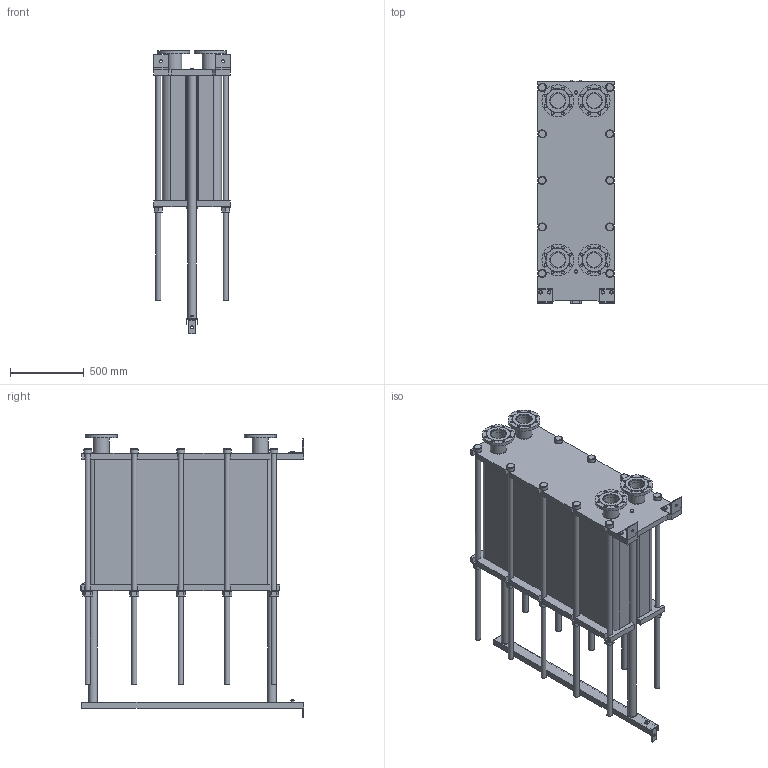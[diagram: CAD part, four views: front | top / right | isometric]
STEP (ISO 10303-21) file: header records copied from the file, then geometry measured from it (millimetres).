
FILE_DESCRIPTION(/* description */ (''),/* implementation_level */ '2;1');
FILE_NAME(/* name */ 'C:\Users\zhuro\Desktop\ENCO\TO\ЭН-04\ЭН-0,5-04-246-1.stp',/* time_stamp */ '2022-06-06T11:06:34+03:00',/* author */ ('zhuro'),/* organization */ (''),/* preprocessor_version */ 'ST-DEVELOPER v18.1',/* originating_system */ 'Autodesk Inventor 2022',/* authorisation */ '');
FILE_SCHEMA (('AUTOMOTIVE_DESIGN { 1 0 10303 214 3 1 1 }'));
Length unit declared in the file: millimetre
Products named in the file (1): ЭН-0,5-04-246-1
Bounding box: 520 x 1510 x 1918 mm (x, y, z)
Volume: 503208236.4 mm3; surface area: 11565815.8 mm2
Topology: 45 solids, 45 shells, 668 faces, 1611 edges, 1048 vertices
Faces by surface type: plane 457, cylinder 166, cone 39, torus 6
Full cylindrical faces by diameter (mm): 8 x4, 10 x2, 16 x8, 18 x35, 36 x25, 40 x2, 42 x1, 45 x4, 54 x10, 57 x2, 60 x10, 68 x2, 100 x4, 110 x8, 215 x4
Entity records: 23607 total; most frequent: CARTESIAN_POINT 7348, DIRECTION 3371, ORIENTED_EDGE 3142, EDGE_CURVE 1571, AXIS2_PLACEMENT_3D 1199, VERTEX_POINT 1044, LINE 973, VECTOR 973
